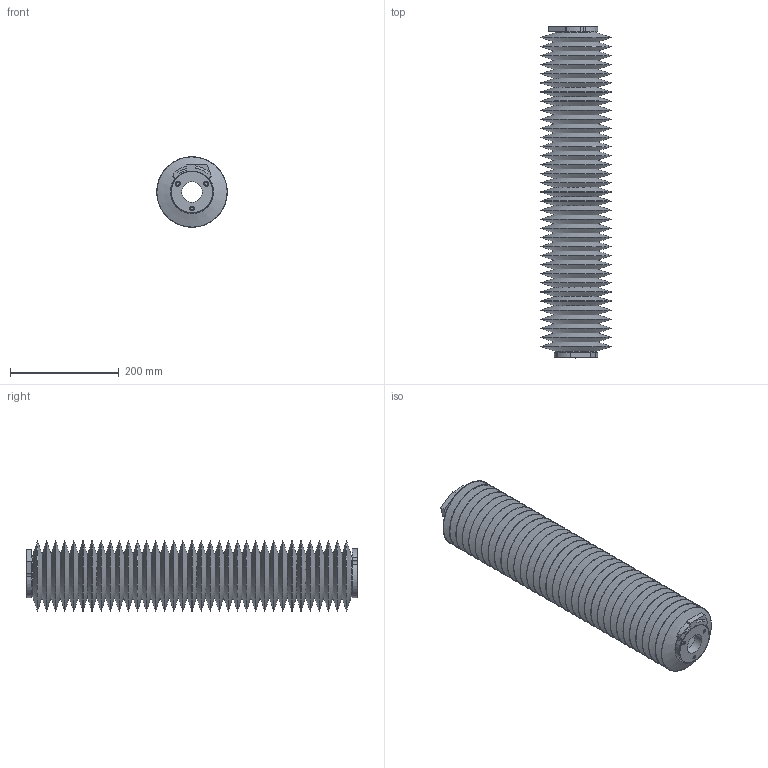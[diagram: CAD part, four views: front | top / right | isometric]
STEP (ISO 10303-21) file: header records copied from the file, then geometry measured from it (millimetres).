
FILE_DESCRIPTION (( 'STEP AP203' ), '1' );
FILE_NAME ('BTS-38-600-085.STEP', '2012-12-11T17:00:37', ( 'Eng-6' ), ( 'Hewlett-Packard Company' ), 'SwSTEP 2.0', 'SolidWorks 2012', '' );
FILE_SCHEMA (( 'CONFIG_CONTROL_DESIGN' ));
Length unit declared in the file: inch
Products named in the file (1): BTS-38-600-085
Bounding box: 129.28 x 609.98 x 129.3 mm (x, y, z)
Surface area: 664050.4 mm2 (no closed solid volume)
Topology: 0 solids, 14 shells, 164 faces, 415 edges, 259 vertices
Faces by surface type: cone 73, bspline 35, cylinder 32, plane 24
Full cylindrical faces by diameter (mm): 5.207 x6, 8.712 x6, 38.1 x2, 77.013 x2
Entity records: 5359 total; most frequent: CARTESIAN_POINT 2114, DIRECTION 672, ORIENTED_EDGE 466, EDGE_LOOP 310, AXIS2_PLACEMENT_3D 304, EDGE_CURVE 254, VERTEX_POINT 222, FACE_OUTER_BOUND 215
